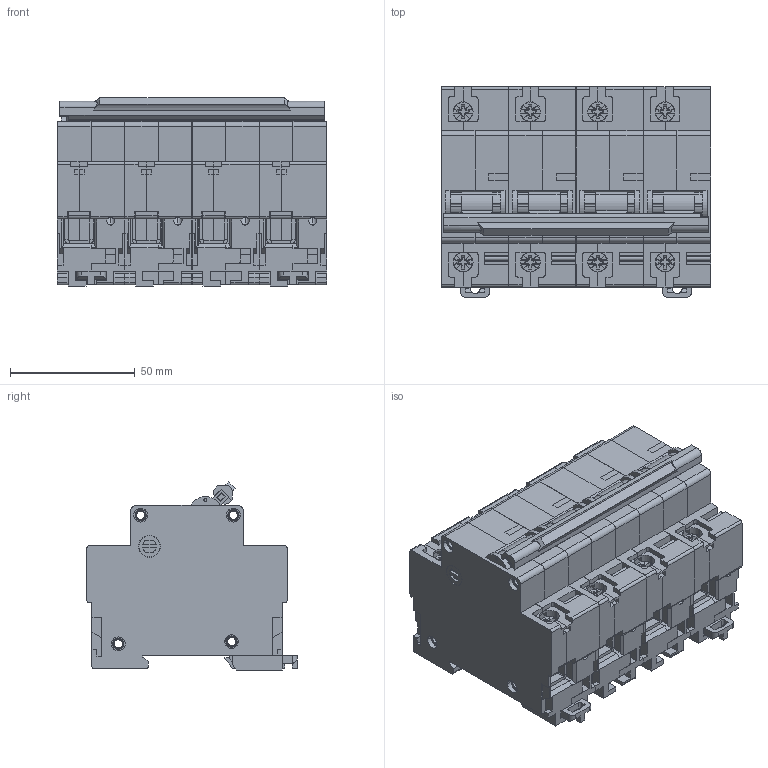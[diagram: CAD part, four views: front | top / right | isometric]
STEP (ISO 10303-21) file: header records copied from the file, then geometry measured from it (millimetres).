
FILE_DESCRIPTION (( 'STEP AP214' ), '1' );
FILE_NAME ('臍47-100 4 瀁錌黟.STEP', '2022-11-18T09:48:58', ( '' ), ( '' ), 'SwSTEP 2.0', 'SolidWorks 2018', '' );
FILE_SCHEMA (( 'AUTOMOTIVE_DESIGN' ));
Length unit declared in the file: millimetre
Products named in the file (16): 臍47-100 4 瀁錌黟; ﾂﾀ47-100-1_尚皚･､ｭｨｩ ｯｮｫ髜; Ñêîáà (ÂÀ47-100 OFA) 04.2022_4 ¯®«îá ; ÂÀ47-100-1_1 ¤«ï 4; ÂÀ47-100-1_1å ¡¥§ § é¥«ª¨; Êîëîäêà ÂÀ47-100; ﾂ鏆鮏 ﾂﾀ47-100; 青汶篪赅 (吕47-29) 14.02.2022; Çàêëåïêà ÂÀ47-100_4-å; 栺樏鋋 鴈儰罻襜譇 臍47-100; Çàù¸ëêà ÂÀ47-100_¤«ï á¡®àª¨; Çàêëåïêà ÂÀ47-100_1-å; Áîêîâèíà ëåâàÿ ÂÀ47-100; Áîêîâèíà ïðàâàÿ ÂÀ47-100; 鎔艜 臍47-100; Ðó÷êà ÂÀ47-100
Assembly tree (51 placements, depth 3):
  臍47-100 4 瀁錌黟
    ÂÀ47-100-1_1 ¤«ï 4
      Áîêîâèíà ëåâàÿ ÂÀ47-100
      Áîêîâèíà ïðàâàÿ ÂÀ47-100
      Çàù¸ëêà ÂÀ47-100_¤«ï á¡®àª¨
      Çàêëåïêà ÂÀ47-100_4-å  x4
      青汶篪赅 (吕47-29) 14.02.2022  x2
      Ðó÷êà ÂÀ47-100
      鎔艜 臍47-100  x2
      Êîëîäêà ÂÀ47-100  x2
      栺樏鋋 鴈儰罻襜譇 臍47-100
      ﾂ鏆鮏 ﾂﾀ47-100  x2
    Ñêîáà (ÂÀ47-100 OFA) 04.2022_4 ¯®«îá 
    ÂÀ47-100-1_1å ¡¥§ § é¥«ª¨  x2
      Áîêîâèíà ëåâàÿ ÂÀ47-100
      Áîêîâèíà ïðàâàÿ ÂÀ47-100
      Çàêëåïêà ÂÀ47-100_1-å
      青汶篪赅 (吕47-29) 14.02.2022
      Ðó÷êà ÂÀ47-100
      鎔艜 臍47-100
      Êîëîäêà ÂÀ47-100
      栺樏鋋 鴈儰罻襜譇 臍47-100
      ﾂ鏆鮏 ﾂﾀ47-100
    ﾂﾀ47-100-1_尚皚･､ｭｨｩ ｯｮｫ髜
      Áîêîâèíà ëåâàÿ ÂÀ47-100
      Áîêîâèíà ïðàâàÿ ÂÀ47-100
      Çàù¸ëêà ÂÀ47-100_¤«ï á¡®àª¨
      青汶篪赅 (吕47-29) 14.02.2022  x2
      Ðó÷êà ÂÀ47-100
      鎔艜 臍47-100  x2
      Êîëîäêà ÂÀ47-100  x2
      栺樏鋋 鴈儰罻襜譇 臍47-100
      ﾂ鏆鮏 ﾂﾀ47-100  x2
Bounding box: 108 x 84.3 x 75.41 mm (x, y, z)
Volume: 398878.1 mm3; surface area: 165247.9 mm2
Topology: 63 solids, 63 shells, 3302 faces, 8694 edges, 5606 vertices
Faces by surface type: plane 2406, cylinder 768, torus 128
Entity records: 22902 total; most frequent: CARTESIAN_POINT 4035, ORIENTED_EDGE 3802, DIRECTION 3778, EDGE_CURVE 1901, VECTOR 1468, LINE 1468, VERTEX_POINT 1236, AXIS2_PLACEMENT_3D 1155
